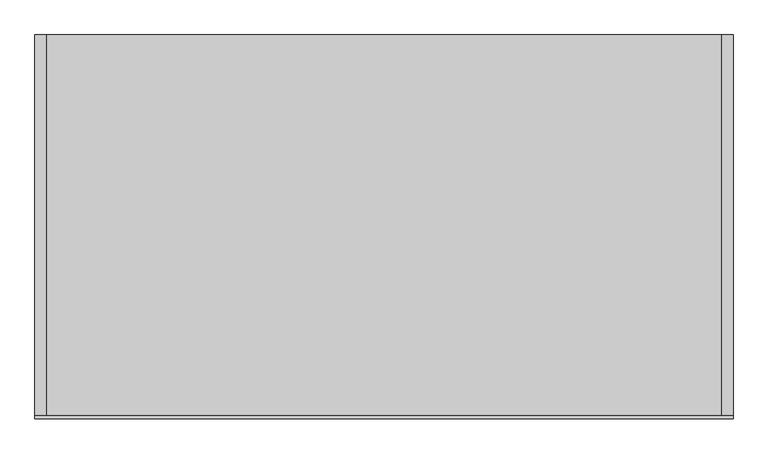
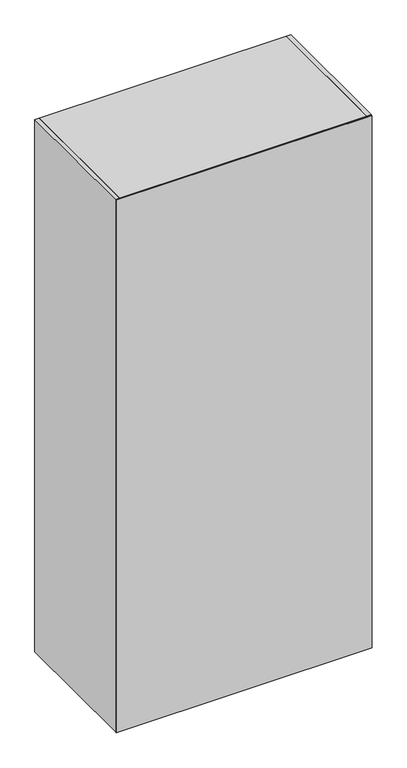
"""IFC4 building model written with IfcOpenShell, lengths in millimetres: furniture geometry, 衣柜（全参数族） : 1092*2400*600."""

from ifc_helpers import new_model, si_unit, frame, origin, origin_with_axes, place, context, project, spatial, polyline, outline, extrude, source, transform, mapped, element, save


def furniture_1678007a(model_context):
    return source(origin(), model_context, "Body", "SweptSolid", [
        extrude(outline(polyline([(18.0, 1200.0), (18.0, 605.0), (0.0, 605.0), (0.0, 1200.0), (18.0, 1200.0)])), origin_with_axes(), (0.0, 0.0, 1.0), 2400.0),
        extrude(outline(polyline([(1092.0, 1200.0), (1092.0, 605.0), (1074.0, 605.0), (1074.0, 1200.0), (1092.0, 1200.0)])), origin_with_axes(), (0.0, 0.0, 1.0), 2400.0),
        extrude(outline(polyline([(1074.0, 1200.0), (1074.0, 605.0), (18.0, 605.0), (18.0, 1200.0), (1074.0, 1200.0)])), frame((0.0, 0.0, 2382.0), z_axis=(0.0, 0.0, 1.0), x_axis=(1.0, 0.0, 0.0)), (0.0, 0.0, 1.0), 18.0),
        extrude(outline(polyline([(1074.0, 1200.0), (1074.0, 605.0), (18.0, 605.0), (18.0, 1200.0), (1074.0, 1200.0)])), frame((0.0, 0.0, 82.0), z_axis=(0.0, 0.0, 1.0), x_axis=(1.0, 0.0, 0.0)), (0.0, 0.0, 1.0), 18.0),
        extrude(outline(polyline([(0.0, 600.0), (0.0, 605.0), (1092.0, 605.0), (1092.0, 600.0), (0.0, 600.0)])), origin_with_axes(), (0.0, 0.0, 1.0), 2400.0),
        extrude(outline(polyline([(1074.0, 1200.0), (1074.0, 1182.0), (18.0, 1182.0), (18.0, 1200.0), (1074.0, 1200.0)])), origin_with_axes(), (0.0, 0.0, 1.0), 82.0),
    ])


if __name__ == "__main__":
    model = new_model("IFC4")
    model_context = context("Model", 3, world=origin())
    ifc_project = project(units=[si_unit("LENGTHUNIT", "METRE", prefix="MILLI")], contexts=[model_context])
    site = spatial("IfcSite", under=ifc_project)
    building = spatial("IfcBuilding", under=site)
    placement = place(None, origin())
    furniture_shape = furniture_1678007a(model_context)
    element("IfcFurniture", 1, ObjectType="衣柜（全参数族） : 1092*2400*600", at=placement, inside=building, context=model_context, shape_type="MappedRepresentation", body=[
        mapped(furniture_shape, transform((0.0, 0.0, 0.0), x_axis=(1.0, 0.0, 0.0), y_axis=(0.0, 1.0, 0.0), z_axis=(0.0, 0.0, 1.0))),
    ])
    save(model, "model.ifc")
